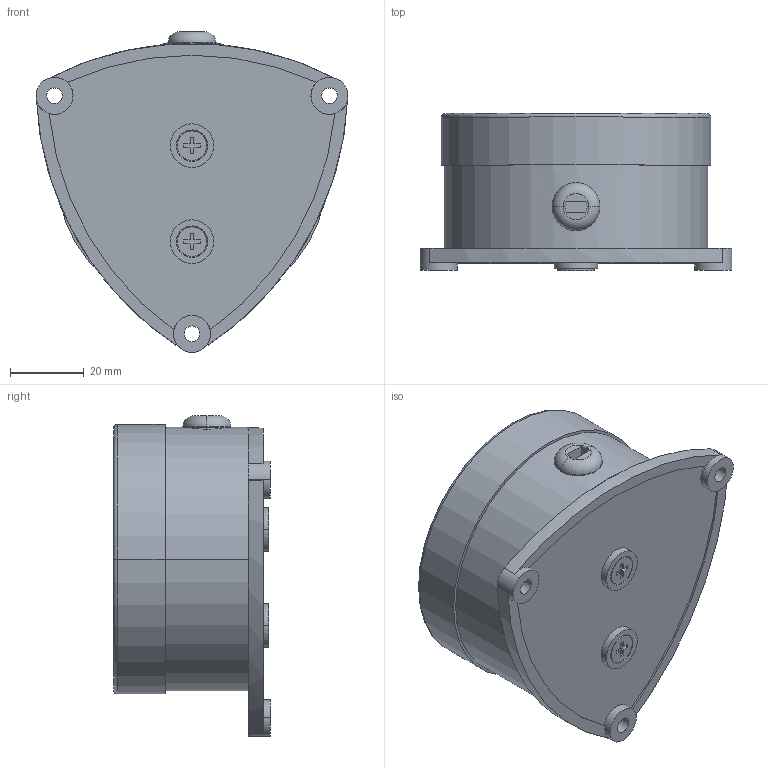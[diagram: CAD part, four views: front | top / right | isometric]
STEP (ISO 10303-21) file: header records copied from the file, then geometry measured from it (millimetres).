
FILE_DESCRIPTION((''),'2;1');
FILE_NAME('TBN220_ASM','2016-06-18T',('Administrator'),(''),'PRO/ENGINEER BY PARAMETRIC TECHNOLOGY CORPORATION, 2012360','PRO/ENGINEER BY PARAMETRIC TECHNOLOGY CORPORATION, 2012360','');
FILE_SCHEMA(('CONFIG_CONTROL_DESIGN'));
Length unit declared in the file: millimetre
Products named in the file (1): TBN220_ASM
Bounding box: 84.48 x 42.5 x 86.89 mm (x, y, z)
Volume: 107631.7 mm3; surface area: 41215.6 mm2
Topology: 1 solids, 3 shells, 632 faces, 1623 edges, 1012 vertices
Faces by surface type: cylinder 273, plane 221, bspline 68, cone 24, torus 22, sphere 16, extrusion 8
Entity records: 29708 total; most frequent: CARTESIAN_POINT 14831, ORIENTED_EDGE 3242, DIRECTION 2879, EDGE_CURVE 1621, AXIS2_PLACEMENT_3D 1065, VERTEX_POINT 1012, VECTOR 749, LINE 741
